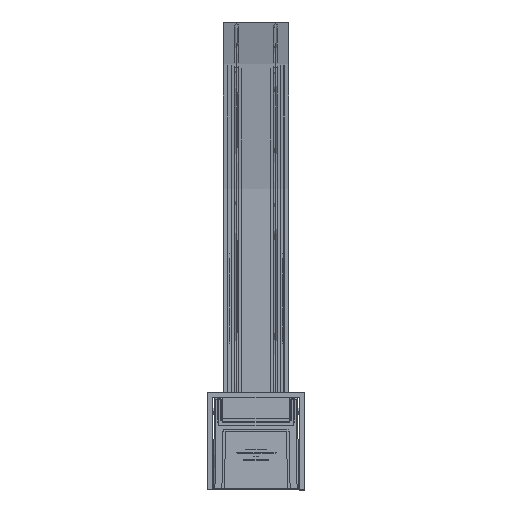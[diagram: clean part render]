
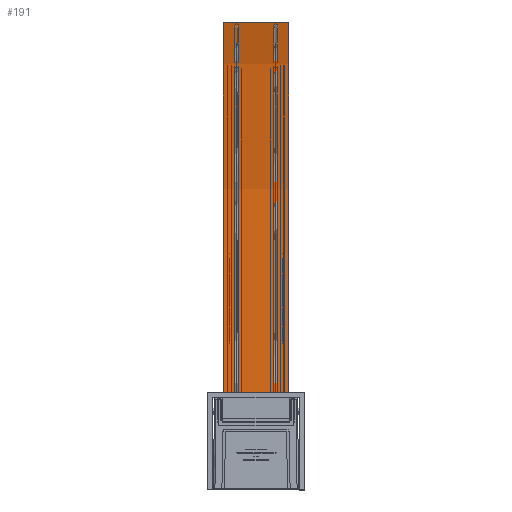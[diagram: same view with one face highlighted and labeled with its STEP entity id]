
A CAD part, front view. The second image highlights one B-rep face of the part: STEP entity #191.
In plain terms, the highlighted free-form (B-spline) face has degree [2, 1] with [9, 2] control points.
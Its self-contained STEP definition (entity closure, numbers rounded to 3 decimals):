
#191=ADVANCED_FACE('',(#974),#11125,.T.);
#974=FACE_OUTER_BOUND('',#1757,.T.);
#1757=EDGE_LOOP('',(#2719,#2720,#2721,#2722));
#2719=ORIENTED_EDGE('',*,*,#6305,.T.);
#2720=ORIENTED_EDGE('',*,*,#6306,.T.);
#2721=ORIENTED_EDGE('',*,*,#6307,.T.);
#2722=ORIENTED_EDGE('',*,*,#6308,.T.);
#6305=EDGE_CURVE('',#9915,#9916,#8965,.T.);
#6306=EDGE_CURVE('',#9916,#9917,#8044,.T.);
#6307=EDGE_CURVE('',#9917,#9918,#8966,.T.);
#6308=EDGE_CURVE('',#9918,#9915,#8045,.T.);
#8044=B_SPLINE_CURVE_WITH_KNOTS('',1,(#21716,#21717),.UNSPECIFIED.,.F.,
 .F.,(2,2),(0.,23.4),.UNSPECIFIED.);
#8045=B_SPLINE_CURVE_WITH_KNOTS('',1,(#21721,#21722),.UNSPECIFIED.,.F.,
 .F.,(2,2),(0.,23.4),.UNSPECIFIED.);
#8965=(
BOUNDED_CURVE()
B_SPLINE_CURVE(2,(#21713,#21714,#21715),.UNSPECIFIED.,.F.,.F.)
B_SPLINE_CURVE_WITH_KNOTS((3,3),(0.,735.642),.UNSPECIFIED.)
CURVE()
GEOMETRIC_REPRESENTATION_ITEM()
RATIONAL_B_SPLINE_CURVE((1.,0.983,1.))
REPRESENTATION_ITEM('')
);
#8966=(
BOUNDED_CURVE()
B_SPLINE_CURVE(2,(#21718,#21719,#21720),.UNSPECIFIED.,.F.,.F.)
B_SPLINE_CURVE_WITH_KNOTS((3,3),(0.,735.642),.UNSPECIFIED.)
CURVE()
GEOMETRIC_REPRESENTATION_ITEM()
RATIONAL_B_SPLINE_CURVE((1.,0.983,1.))
REPRESENTATION_ITEM('')
);
#9915=VERTEX_POINT('',#21196);
#9916=VERTEX_POINT('',#21197);
#9917=VERTEX_POINT('',#21198);
#9918=VERTEX_POINT('',#21199);
#11125=(
BOUNDED_SURFACE()
B_SPLINE_SURFACE(2,1,((#14081,#14082),(#14083,#14084),(#14085,#14086),(#14087,
#14088),(#14089,#14090),(#14091,#14092),(#14093,#14094),(#14095,#14096),
(#14097,#14098)),.UNSPECIFIED.,.T.,.F.,.F.)
B_SPLINE_SURFACE_WITH_KNOTS((3,2,2,2,3),(2,2),(0.,3141.593,6283.185,
9424.778,12566.371),(0.,28.08),.UNSPECIFIED.)
GEOMETRIC_REPRESENTATION_ITEM()
RATIONAL_B_SPLINE_SURFACE(((1.,1.),(0.707,0.707),
(1.,1.),(0.707,0.707),(1.,1.),(0.707,
0.707),(1.,1.),(0.707,0.707),(1.,1.)))
REPRESENTATION_ITEM('')
SURFACE()
);
#14081=CARTESIAN_POINT('',(14.04,745.899,-3861.732));
#14082=CARTESIAN_POINT('',(-14.04,745.899,-3861.732));
#14083=CARTESIAN_POINT('',(14.04,-1254.101,-3861.732));
#14084=CARTESIAN_POINT('',(-14.04,-1254.101,-3861.732));
#14085=CARTESIAN_POINT('',(14.04,-1254.101,-1861.732));
#14086=CARTESIAN_POINT('',(-14.04,-1254.101,-1861.732));
#14087=CARTESIAN_POINT('',(14.04,-1254.101,138.268));
#14088=CARTESIAN_POINT('',(-14.04,-1254.101,138.268));
#14089=CARTESIAN_POINT('',(14.04,745.899,138.268));
#14090=CARTESIAN_POINT('',(-14.04,745.899,138.268));
#14091=CARTESIAN_POINT('',(14.04,2745.899,138.268));
#14092=CARTESIAN_POINT('',(-14.04,2745.899,138.268));
#14093=CARTESIAN_POINT('',(14.04,2745.899,-1861.732));
#14094=CARTESIAN_POINT('',(-14.04,2745.899,-1861.732));
#14095=CARTESIAN_POINT('',(14.04,2745.899,-3861.732));
#14096=CARTESIAN_POINT('',(-14.04,2745.899,-3861.732));
#14097=CARTESIAN_POINT('',(14.04,745.899,-3861.732));
#14098=CARTESIAN_POINT('',(-14.04,745.899,-3861.732));
#21196=CARTESIAN_POINT('',(11.7,26.733,4.494));
#21197=CARTESIAN_POINT('',(11.7,745.899,138.268));
#21198=CARTESIAN_POINT('',(-11.7,745.899,138.268));
#21199=CARTESIAN_POINT('',(-11.7,26.733,4.494));
#21713=CARTESIAN_POINT('',(11.7,26.733,4.494));
#21714=CARTESIAN_POINT('',(11.7,373.875,138.268));
#21715=CARTESIAN_POINT('',(11.7,745.899,138.268));
#21716=CARTESIAN_POINT('',(11.7,745.899,138.268));
#21717=CARTESIAN_POINT('',(-11.7,745.899,138.268));
#21718=CARTESIAN_POINT('',(-11.7,745.899,138.268));
#21719=CARTESIAN_POINT('',(-11.7,373.875,138.268));
#21720=CARTESIAN_POINT('',(-11.7,26.733,4.494));
#21721=CARTESIAN_POINT('',(-11.7,26.733,4.494));
#21722=CARTESIAN_POINT('',(11.7,26.733,4.494));
